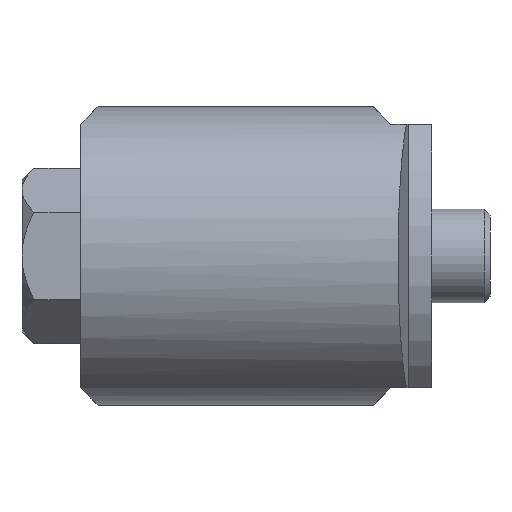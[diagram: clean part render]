
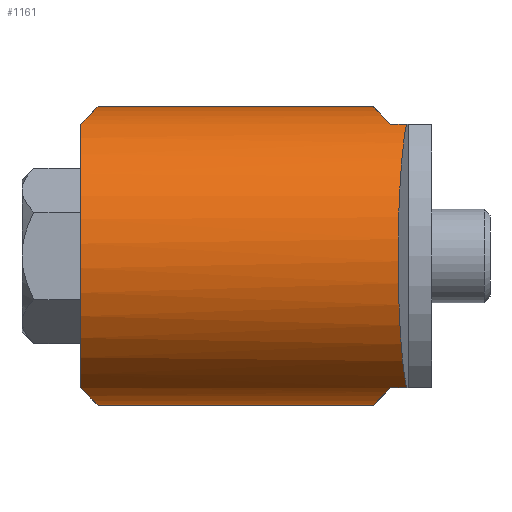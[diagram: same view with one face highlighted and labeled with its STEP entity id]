
A CAD part, left-side view. The second image highlights one B-rep face of the part: STEP entity #1161.
In plain terms, the highlighted cylindrical face has radius 12.75 mm (diameter 25.5 mm), a partial arc.
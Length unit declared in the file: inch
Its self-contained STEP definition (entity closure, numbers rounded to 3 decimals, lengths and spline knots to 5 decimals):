
#38=ELLIPSE('',#1264,0.70989,0.50197);
#39=ELLIPSE('',#1267,0.70989,0.50197);
#40=ELLIPSE('',#1270,0.70989,0.50197);
#41=ELLIPSE('',#1272,0.70989,0.50197);
#42=ELLIPSE('',#1276,0.50473,0.50197);
#71=LINE('',#1821,#134);
#84=LINE('',#1851,#147);
#93=LINE('',#1876,#156);
#94=LINE('',#1878,#157);
#134=VECTOR('',#1462,0.3937);
#147=VECTOR('',#1481,0.3937);
#156=VECTOR('',#1508,0.3937);
#157=VECTOR('',#1511,0.3937);
#194=CYLINDRICAL_SURFACE('',#1277,0.50197);
#225=FACE_OUTER_BOUND('',#295,.T.);
#295=EDGE_LOOP('',(#798,#799,#800,#801,#802,#803,#804,#805,#806,#807));
#377=CIRCLE('',#1278,0.50197);
#457=VERTEX_POINT('',#1811);
#458=VERTEX_POINT('',#1812);
#461=VERTEX_POINT('',#1820);
#466=VERTEX_POINT('',#1832);
#467=VERTEX_POINT('',#1833);
#474=VERTEX_POINT('',#1848);
#475=VERTEX_POINT('',#1850);
#477=VERTEX_POINT('',#1856);
#479=VERTEX_POINT('',#1862);
#480=VERTEX_POINT('',#1863);
#576=EDGE_CURVE('',#457,#458,#38,.T.);
#580=EDGE_CURVE('',#458,#461,#71,.T.);
#586=EDGE_CURVE('',#466,#467,#39,.T.);
#594=EDGE_CURVE('',#475,#474,#84,.T.);
#597=EDGE_CURVE('',#474,#477,#40,.T.);
#600=EDGE_CURVE('',#479,#480,#41,.T.);
#606=EDGE_CURVE('',#461,#475,#42,.T.);
#607=EDGE_CURVE('',#477,#479,#93,.T.);
#608=EDGE_CURVE('',#466,#480,#377,.T.);
#609=EDGE_CURVE('',#457,#467,#94,.T.);
#798=ORIENTED_EDGE('',*,*,#576,.T.);
#799=ORIENTED_EDGE('',*,*,#580,.T.);
#800=ORIENTED_EDGE('',*,*,#606,.T.);
#801=ORIENTED_EDGE('',*,*,#594,.T.);
#802=ORIENTED_EDGE('',*,*,#597,.T.);
#803=ORIENTED_EDGE('',*,*,#607,.T.);
#804=ORIENTED_EDGE('',*,*,#600,.T.);
#805=ORIENTED_EDGE('',*,*,#608,.F.);
#806=ORIENTED_EDGE('',*,*,#586,.T.);
#807=ORIENTED_EDGE('',*,*,#609,.F.);
#1161=ADVANCED_FACE('',(#225),#194,.T.);
#1264=AXIS2_PLACEMENT_3D('',#1813,#1455,#1456);
#1267=AXIS2_PLACEMENT_3D('',#1834,#1470,#1471);
#1270=AXIS2_PLACEMENT_3D('',#1857,#1486,#1487);
#1272=AXIS2_PLACEMENT_3D('',#1864,#1492,#1493);
#1276=AXIS2_PLACEMENT_3D('',#1874,#1504,#1505);
#1277=AXIS2_PLACEMENT_3D('',#1875,#1506,#1507);
#1278=AXIS2_PLACEMENT_3D('',#1877,#1509,#1510);
#1455=DIRECTION('center_axis',(0.,0.707,0.707));
#1456=DIRECTION('ref_axis',(0.,-0.707,0.707));
#1462=DIRECTION('',(0.,-1.,0.));
#1470=DIRECTION('center_axis',(0.,-0.707,0.707));
#1471=DIRECTION('ref_axis',(0.,0.707,0.707));
#1481=DIRECTION('',(0.,1.,0.));
#1486=DIRECTION('center_axis',(0.,0.707,-0.707));
#1487=DIRECTION('ref_axis',(0.,0.707,0.707));
#1492=DIRECTION('center_axis',(0.,-0.707,-0.707));
#1493=DIRECTION('ref_axis',(0.,-0.707,0.707));
#1504=DIRECTION('center_axis',(0.105,0.995,0.));
#1505=DIRECTION('ref_axis',(-0.995,0.105,0.));
#1506=DIRECTION('center_axis',(0.,-1.,0.));
#1507=DIRECTION('ref_axis',(0.,0.,1.));
#1508=DIRECTION('',(0.,1.,0.));
#1509=DIRECTION('center_axis',(0.,1.,0.));
#1510=DIRECTION('ref_axis',(0.,0.,1.));
#1511=DIRECTION('',(0.,1.,0.));
#1811=CARTESIAN_POINT('',(-1.86193,0.66872,-0.02886));
#1812=CARTESIAN_POINT('',(-2.09815,0.60966,0.03019));
#1813=CARTESIAN_POINT('Origin',(-1.86193,0.16675,0.4731));
#1820=CARTESIAN_POINT('',(-2.09815,0.5562,0.03019));
#1821=CARTESIAN_POINT('',(-2.09815,1.65297,0.03019));
#1832=CARTESIAN_POINT('',(-2.09815,1.65297,0.03019));
#1833=CARTESIAN_POINT('',(-1.86193,1.59392,-0.02886));
#1834=CARTESIAN_POINT('Origin',(-1.86193,2.09589,0.4731));
#1848=CARTESIAN_POINT('',(-2.09815,0.60966,0.91602));
#1850=CARTESIAN_POINT('',(-2.09815,0.5562,0.91602));
#1851=CARTESIAN_POINT('',(-2.09815,1.65297,0.91602));
#1856=CARTESIAN_POINT('',(-1.86193,0.66872,0.97507));
#1857=CARTESIAN_POINT('Origin',(-1.86193,0.16675,0.4731));
#1862=CARTESIAN_POINT('',(-1.86193,1.59392,0.97507));
#1863=CARTESIAN_POINT('',(-2.09815,1.65297,0.91602));
#1864=CARTESIAN_POINT('Origin',(-1.86193,2.09589,0.4731));
#1874=CARTESIAN_POINT('Origin',(-1.86193,0.53137,0.4731));
#1875=CARTESIAN_POINT('Origin',(-1.86193,1.65297,0.4731));
#1876=CARTESIAN_POINT('',(-1.86193,1.65297,0.97507));
#1877=CARTESIAN_POINT('Origin',(-1.86193,1.65297,0.4731));
#1878=CARTESIAN_POINT('',(-1.86193,1.65297,-0.02886));
